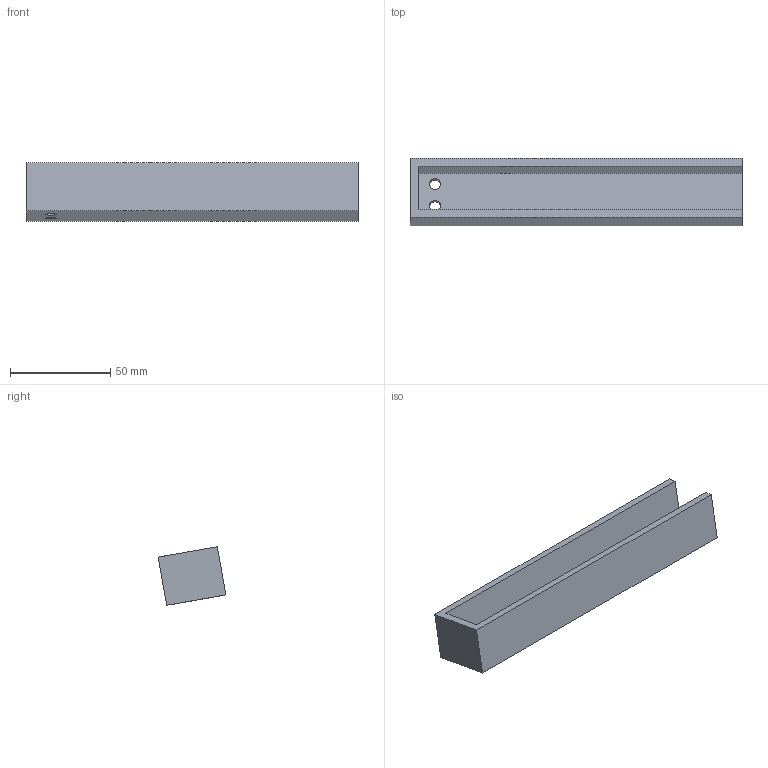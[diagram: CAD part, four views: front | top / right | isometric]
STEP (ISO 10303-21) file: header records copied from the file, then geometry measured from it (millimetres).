
FILE_DESCRIPTION(('golf model'),'2;1');
FILE_NAME('golf','',(''),(''),'golf_step_io','golf','');
FILE_SCHEMA(('AUTOMOTIVE_DESIGN { 1 0 10303 214 1 1 1 1 }'));
Length unit declared in the file: millimetre
Products named in the file (2): ASSEMBLY; z_axis.z_chain_bracket
Assembly tree (1 placements, depth 2):
  ASSEMBLY
    z_axis.z_chain_bracket
Bounding box: 166 x 33.8 x 29.34 mm (x, y, z)
Volume: 48757.9 mm3; surface area: 26249.2 mm2
Topology: 1 solids, 1 shells, 12 faces, 30 edges, 20 vertices
Faces by surface type: plane 10, cylinder 2
Full cylindrical faces by diameter (mm): 5.5 x2
Entity records: 390 total; most frequent: CARTESIAN_POINT 62, DIRECTION 60, ORIENTED_EDGE 56, EDGE_CURVE 28, VECTOR 24, LINE 24, VERTEX_POINT 20, AXIS2_PLACEMENT_3D 18
